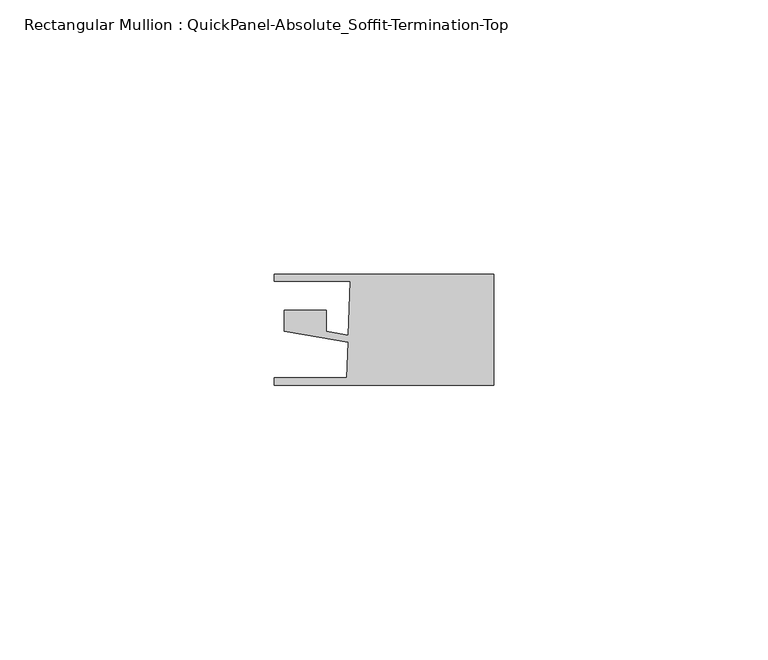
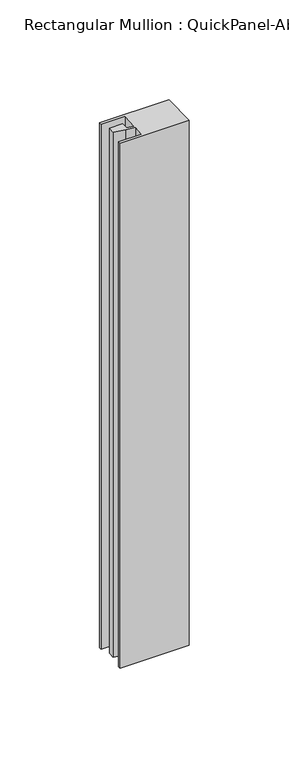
"""IFC4 building model written with IfcOpenShell, lengths in millimetres: member geometry, Rectangular Mullion : QuickPanel-Absolute_Soffit-Termination-Top."""

from ifc_helpers import new_model, si_unit, frame, origin, place, context, project, spatial, polyline, outline, extrude, source, transform, mapped, element, save


def rectangular_mullion_quickpanel_absolute_soffit_termination_797cf90f(model_context):
    return source(origin(), model_context, "Body", "SweptSolid", [
        extrude(outline(polyline([(-40.0272216, -8.095605), (-40.0272216, -6.6935423), (-26.7863089, -6.6935423), (-26.5595237, -0.1992641), (-31.8098046, 0.7008023), (-38.2451373, 1.8040245), (-38.2451373, 5.6493034), (-30.5003642, 5.6493034), (-30.5003642, 1.7648465), (-26.5147952, 1.0815922), (-26.1708682, 10.9303752), (-40.0272216, 10.9303752), (-40.0272216, 12.1803727), (0.0, 12.1803727), (0.0, -8.095605), (-40.0272216, -8.095605)])), frame((0.0, 0.0, -320.6579255), z_axis=(0.0, 0.0, 1.0), x_axis=(1.0, 0.0, 0.0)), (0.0, 0.0, 1.0), 320.6579255),
    ])


if __name__ == "__main__":
    model = new_model("IFC4")
    model_context = context("Model", 3, world=origin())
    ifc_project = project(units=[si_unit("LENGTHUNIT", "METRE", prefix="MILLI")], contexts=[model_context])
    site = spatial("IfcSite", under=ifc_project)
    building = spatial("IfcBuilding", under=site)
    placement = place(None, origin())
    rectangular_mullion_quickpanel_absolute_soffit_termination_shape = rectangular_mullion_quickpanel_absolute_soffit_termination_797cf90f(model_context)
    element("IfcMember", 1, ObjectType="Rectangular Mullion : QuickPanel-Absolute_Soffit-Termination-Top", at=placement, inside=building, context=model_context, shape_type="MappedRepresentation", body=[
        mapped(rectangular_mullion_quickpanel_absolute_soffit_termination_shape, transform((0.0, 0.0, 0.0), x_axis=(1.0, 0.0, 0.0), y_axis=(0.0, 1.0, 0.0), z_axis=(0.0, 0.0, 1.0))),
    ])
    save(model, "model.ifc")
